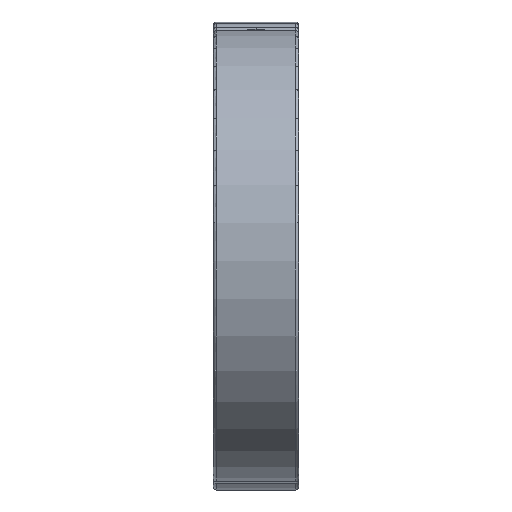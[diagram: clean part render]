
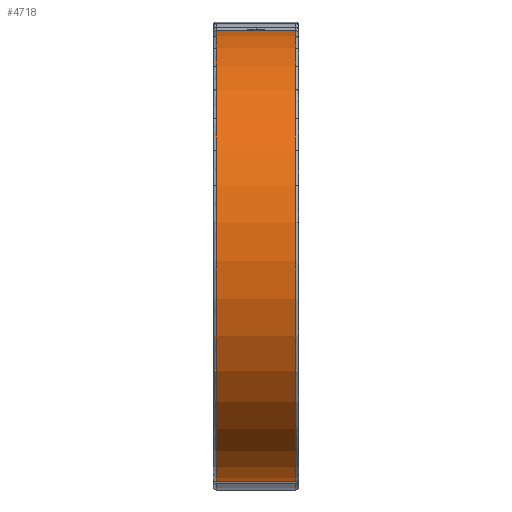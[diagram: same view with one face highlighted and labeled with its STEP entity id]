
A CAD part, left-side view. The second image highlights one B-rep face of the part: STEP entity #4718.
In plain terms, the highlighted cylindrical face has radius 79.55 mm (diameter 159.1 mm), a partial arc.
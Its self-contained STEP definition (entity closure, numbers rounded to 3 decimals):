
#151 = CYLINDRICAL_SURFACE ( 'NONE', #3240, 79.55 ) ;
#659 = CARTESIAN_POINT ( 'NONE',  ( -80.447, 15., -79.537 ) ) ;
#679 = DIRECTION ( 'NONE',  ( 0., 0., 1. ) ) ;
#918 = DIRECTION ( 'NONE',  ( 0., -1., 0. ) ) ;
#1120 = DIRECTION ( 'NONE',  ( 0., -1., 0. ) ) ;
#1220 = DIRECTION ( 'NONE',  ( 0., 0., 1. ) ) ;
#1252 = CARTESIAN_POINT ( 'NONE',  ( -78.993, 14., 0. ) ) ;
#1372 = EDGE_CURVE ( 'NONE', #3062, #5862, #13302, .T. ) ;
#1528 = VECTOR ( 'NONE', #7944, 1000. ) ;
#1831 = EDGE_LOOP ( 'NONE', ( #16471, #15179, #10640, #13391 ) ) ;
#1954 = DIRECTION ( 'NONE',  ( 0., -1., 0. ) ) ;
#2136 = EDGE_CURVE ( 'NONE', #5862, #7243, #12889, .T. ) ;
#2214 = CARTESIAN_POINT ( 'NONE',  ( -78.993, 15., 0. ) ) ;
#3062 = VERTEX_POINT ( 'NONE', #15065 ) ;
#3171 = EDGE_CURVE ( 'NONE', #7243, #13268, #5102, .T. ) ;
#3240 = AXIS2_PLACEMENT_3D ( 'NONE', #2214, #918, #11563 ) ;
#4718 = ADVANCED_FACE ( 'NONE', ( #14254 ), #151, .T. ) ;
#5102 = CIRCLE ( 'NONE', #12704, 79.55 ) ;
#5238 = CARTESIAN_POINT ( 'NONE',  ( -83.945, 0., 79.396 ) ) ;
#5723 = VECTOR ( 'NONE', #1954, 1000. ) ;
#5862 = VERTEX_POINT ( 'NONE', #16067 ) ;
#6810 = AXIS2_PLACEMENT_3D ( 'NONE', #1252, #1120, #1220 ) ;
#7243 = VERTEX_POINT ( 'NONE', #16208 ) ;
#7484 = CARTESIAN_POINT ( 'NONE',  ( -83.945, -14., 79.396 ) ) ;
#7944 = DIRECTION ( 'NONE',  ( 0., 1., 0. ) ) ;
#8587 = DIRECTION ( 'NONE',  ( 0., 1., 0. ) ) ;
#10640 = ORIENTED_EDGE ( 'NONE', *, *, #2136, .T. ) ;
#11563 = DIRECTION ( 'NONE',  ( 0., 0., -1. ) ) ;
#12704 = AXIS2_PLACEMENT_3D ( 'NONE', #16564, #8587, #679 ) ;
#12889 = LINE ( 'NONE', #659, #5723 ) ;
#13268 = VERTEX_POINT ( 'NONE', #7484 ) ;
#13302 = CIRCLE ( 'NONE', #6810, 79.55 ) ;
#13391 = ORIENTED_EDGE ( 'NONE', *, *, #3171, .T. ) ;
#13485 = EDGE_CURVE ( 'NONE', #13268, #3062, #15669, .T. ) ;
#14254 = FACE_OUTER_BOUND ( 'NONE', #1831, .T. ) ;
#15065 = CARTESIAN_POINT ( 'NONE',  ( -83.945, 14., 79.396 ) ) ;
#15179 = ORIENTED_EDGE ( 'NONE', *, *, #1372, .T. ) ;
#15669 = LINE ( 'NONE', #5238, #1528 ) ;
#16067 = CARTESIAN_POINT ( 'NONE',  ( -80.447, 14., -79.537 ) ) ;
#16208 = CARTESIAN_POINT ( 'NONE',  ( -80.447, -14., -79.537 ) ) ;
#16471 = ORIENTED_EDGE ( 'NONE', *, *, #13485, .T. ) ;
#16564 = CARTESIAN_POINT ( 'NONE',  ( -78.993, -14., 0. ) ) ;
